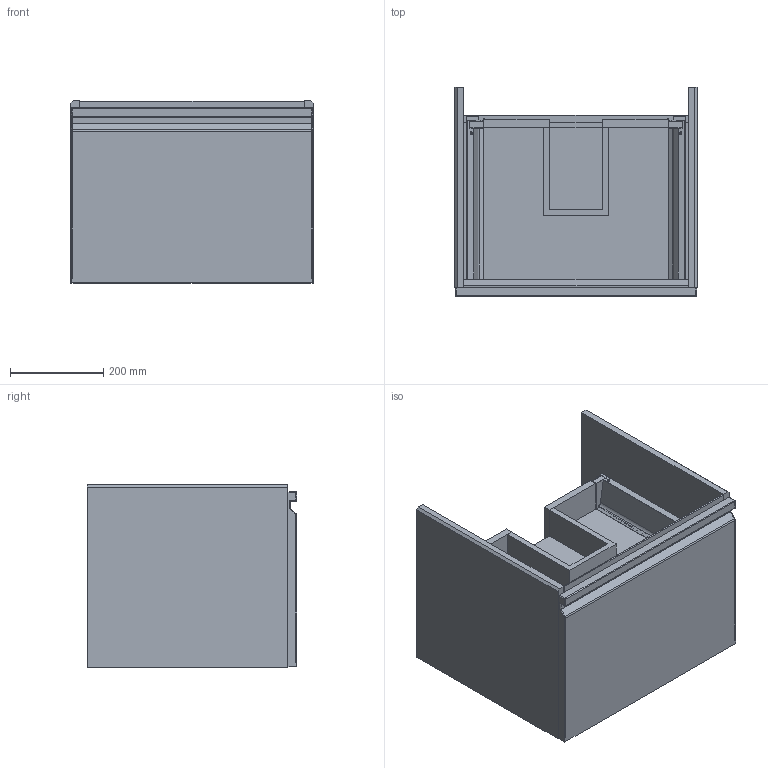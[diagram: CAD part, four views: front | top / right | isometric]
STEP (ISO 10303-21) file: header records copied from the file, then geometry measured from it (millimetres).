
FILE_DESCRIPTION(/* description */ (''),/* implementation_level */ '2;1');
FILE_NAME(/* name */ '3D01_4~2',/* time_stamp */ '2018-05-14T08:58:28+02:00',/* author */ (''),/* organization */ (''),/* preprocessor_version */ 'ST-DEVELOPER v15',/* originating_system */ '',/* authorisation */ '');
FILE_SCHEMA (('AUTOMOTIVE_DESIGN'));
Length unit declared in the file: millimetre
Products named in the file (28): Document; Parte71; Parte69; Parte67; Parte65; Parte63; Parte61; Parte51; Parte49; Parte47; Parte45; Parte43; Parte41; Parte39; Parte37; Parte35; Parte33; Parte31; Parte29; Parte27; Parte25; Parte23; Parte21; Parte11; Parte9; Parte7; Parte5; Parte3
Assembly tree (27 placements, depth 2):
  Document
    Parte71
    Parte69
    Parte67
    Parte65
    Parte63
    Parte61
    Parte51
    Parte49
    Parte47
    Parte45
    Parte43
    Parte41
    Parte39
    Parte37
    Parte35
    Parte33
    Parte31
    Parte29
    Parte27
    Parte25
    Parte23
    Parte21
    Parte11
    Parte9
    Parte7
    Parte5
    Parte3
Bounding box: 520 x 450 x 392 mm (x, y, z)
Volume: 22778279.3 mm3; surface area: 3226693.8 mm2
Topology: 27 solids, 27 shells, 859 faces, 2359 edges, 1590 vertices
Faces by surface type: plane 612, bspline 247
Entity records: 29333 total; most frequent: CARTESIAN_POINT 13160, ORIENTED_EDGE 4710, EDGE_CURVE 2355, B_SPLINE_CURVE_WITH_KNOTS 1787, VERTEX_POINT 1590, EDGE_LOOP 967, ADVANCED_FACE 859, FACE_OUTER_BOUND 859
